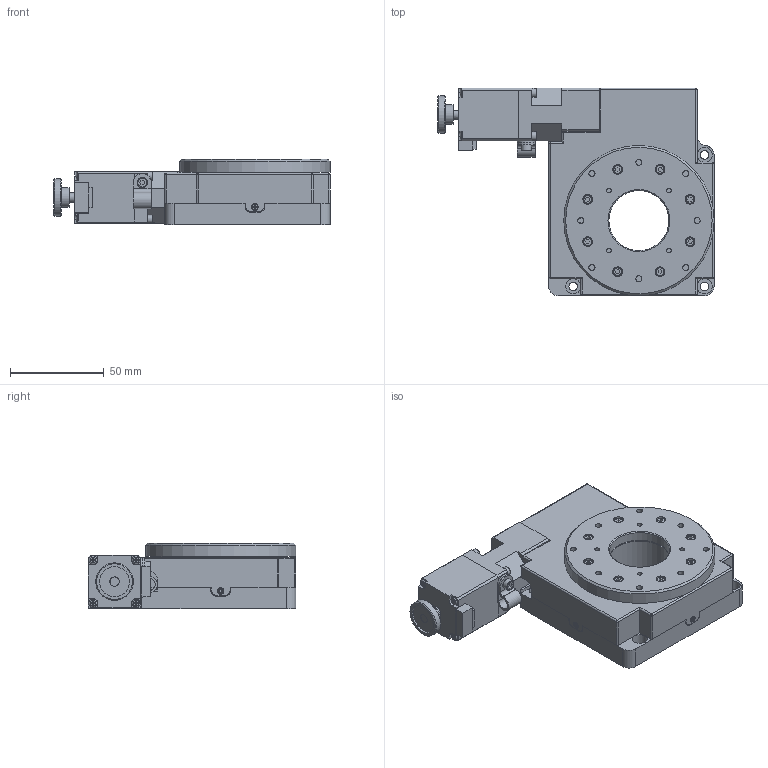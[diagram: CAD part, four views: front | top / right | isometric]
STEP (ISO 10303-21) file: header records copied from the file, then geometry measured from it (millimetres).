
FILE_DESCRIPTION(/* description */ (''),/* implementation_level */ '2;1');
FILE_NAME(/* name */ 'Y:\5_白山⇔能登(開発)\40期\02_HDS\10_3D\HDS80YAW\HDS-80YAW.stp',/* time_stamp */ '2015-01-05T11:48:43+09:00',/* author */ ('ma.tanaka'),/* organization */ (''),/* preprocessor_version */ 'ST-DEVELOPER v15.2',/* originating_system */ 'Autodesk Inventor 2014',/* authorisation */ '');
FILE_SCHEMA (('AUTOMOTIVE_DESIGN { 1 0 10303 214 3 1 1 }'));
Length unit declared in the file: millimetre
Products named in the file (1): HDS80YAWCE-M02-14001-TS01
Bounding box: 147 x 110.5 x 35 mm (x, y, z)
Volume: 184374.9 mm3; surface area: 89281.1 mm2
Topology: 2 solids, 2 shells, 999 faces, 2529 edges, 1634 vertices
Faces by surface type: plane 605, cylinder 292, cone 91, sphere 7, torus 4
Full cylindrical faces by diameter (mm): 1.567 x9, 1.6 x6, 2 x5, 2.1 x2, 2.113 x12, 2.2 x2, 2.459 x13, 2.5 x1, 2.6 x2, 3 x11, 3.242 x8, 3.459 x1, 3.5 x4, 3.8 x2, 4 x2, 4.2 x2, 4.3 x2, 4.5 x21, 5 x2, 5.2 x8, 5.5 x9, 5.6 x1, 6 x1, 7 x6, 8 x5, 8.6 x1, 8.7 x1, 10.5 x1, 12 x1, 13 x1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
Entity records: 29306 total; most frequent: CARTESIAN_POINT 5986, DIRECTION 4821, ORIENTED_EDGE 4428, EDGE_CURVE 2206, AXIS2_PLACEMENT_3D 1725, VERTEX_POINT 1543, EDGE_LOOP 1430, LINE 1371
